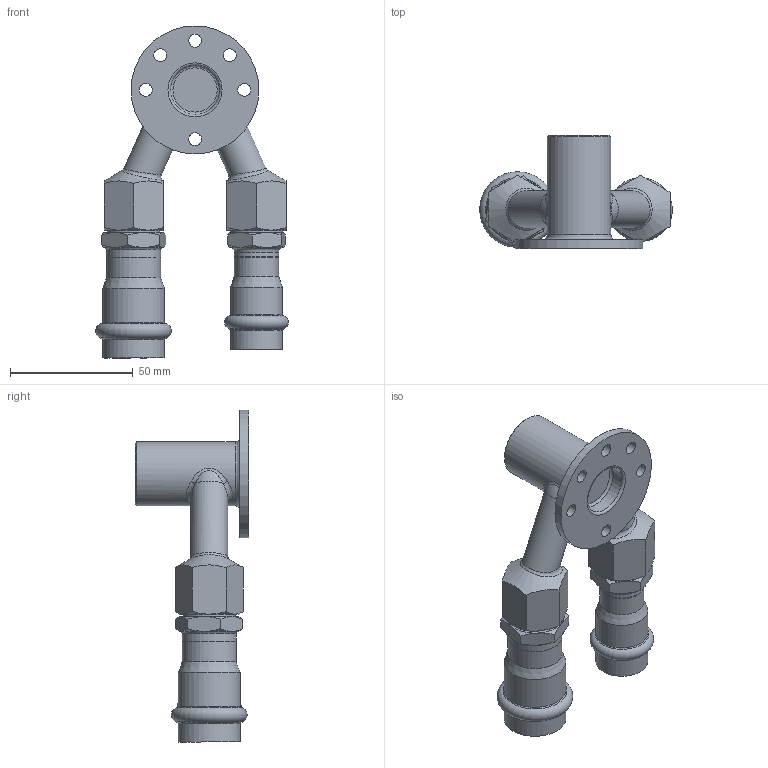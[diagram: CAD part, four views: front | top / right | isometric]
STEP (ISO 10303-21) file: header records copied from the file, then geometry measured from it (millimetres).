
FILE_DESCRIPTION((''),'2;1');
FILE_NAME('G:\Nirosan-Schmiedefeld\Technics\CAD\001 Serie 9.000\69478GZ\69478GZ181222H(1).stp','2019-01-02T12:40:41',('herberg'),(''),'Autodesk Inventor 2009','Autodesk Inventor 2009','');
FILE_SCHEMA(('AUTOMOTIVE_DESIGN { 1 0 10303 214 1 1 1 1 }'));
Length unit declared in the file: millimetre
Products named in the file (8): 69478GZ181222H(1); 69478igz12h(0); 69243G1812H(2); 69HM18P(1); AG1812(1); 69243G2212H(2); 69HM22P(1); AG2212(0)
Assembly tree (7 placements, depth 3):
  69478GZ181222H(1)
    69478igz12h(0)
    69243G1812H(2)
      69HM18P(1)
      AG1812(1)
    69243G2212H(2)
      69HM22P(1)
      AG2212(0)
Bounding box: 78.33 x 46 x 135 mm (x, y, z)
Volume: 50710.2 mm3; surface area: 40431.1 mm2
Topology: 5 solids, 5 shells, 158 faces, 366 edges, 223 vertices
Faces by surface type: cone 52, plane 41, bspline 34, cylinder 22, torus 9
Full cylindrical faces by diameter (mm): 11 x2, 15 x3, 18 x2, 18.15 x2, 18.631 x1, 19 x1, 20 x1, 21.15 x2, 22 x2, 22.15 x2, 25.15 x2, 26 x1, 52 x1
Entity records: 7350 total; most frequent: CARTESIAN_POINT 4292, DIRECTION 564, ORIENTED_EDGE 546, EDGE_CURVE 273, AXIS2_PLACEMENT_3D 270, EDGE_LOOP 258, VERTEX_POINT 201, FACE_OUTER_BOUND 158
